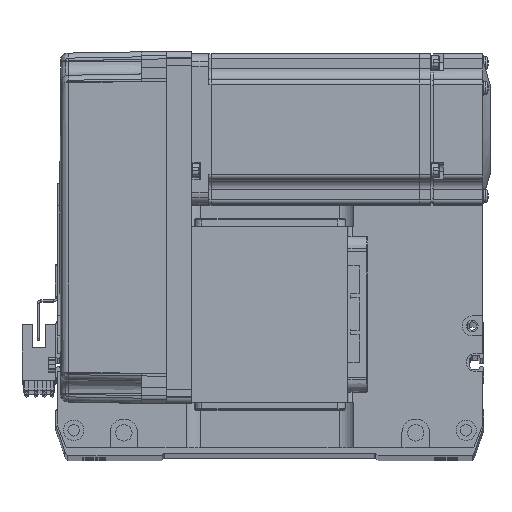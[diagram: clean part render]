
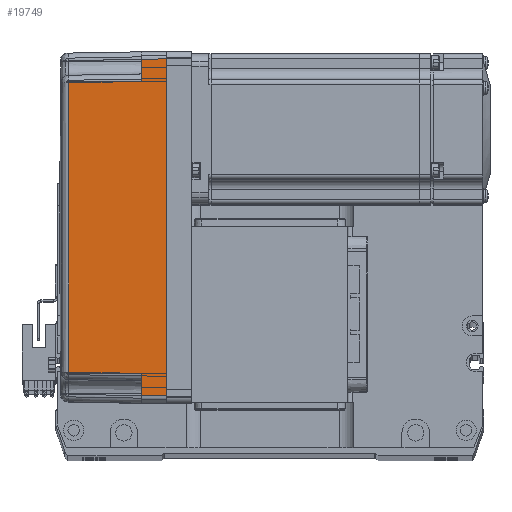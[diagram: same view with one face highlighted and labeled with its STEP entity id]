
A CAD part, top view. The second image highlights one B-rep face of the part: STEP entity #19749.
In plain terms, the highlighted planar face has unit normal (-0.018, 0, 1) as drawn and (0, 1, 0.017) by its records, which use the part's own axes.
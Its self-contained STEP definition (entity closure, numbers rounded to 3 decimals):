
#38 = LINE ( 'NONE', #47721, #30738 ) ;
#1122 = CARTESIAN_POINT ( 'NONE',  ( 58., 35.825, 10. ) ) ;
#1207 = CARTESIAN_POINT ( 'NONE',  ( 67., 36., 0. ) ) ;
#1821 = CARTESIAN_POINT ( 'NONE',  ( 66.826, 35.825, 10. ) ) ;
#2181 = DIRECTION ( 'NONE',  ( 0.017, 0.017, -1. ) ) ;
#2800 = CARTESIAN_POINT ( 'NONE',  ( 57.495, 35.32, 38.985 ) ) ;
#3845 = B_SPLINE_CURVE_WITH_KNOTS ( 'NONE', 3,
 ( #45119, #30681, #56820, #2800 ),
 .UNSPECIFIED., .F., .F.,
 ( 4, 4 ),
 ( 0., 1. ),
 .UNSPECIFIED. ) ;
#6063 = CARTESIAN_POINT ( 'NONE',  ( -58., 35.825, 10. ) ) ;
#8446 = DIRECTION ( 'NONE',  ( 0.017, -0.017, 1. ) ) ;
#9024 = DIRECTION ( 'NONE',  ( 1., 0., 0. ) ) ;
#11013 = EDGE_CURVE ( 'NONE', #31148, #41018, #24064, .T. ) ;
#11024 = DIRECTION ( 'NONE',  ( -0.017, -0.017, 1. ) ) ;
#14271 = ORIENTED_EDGE ( 'NONE', *, *, #61113, .F. ) ;
#14657 = AXIS2_PLACEMENT_3D ( 'NONE', #62554, #53202, #47568 ) ;
#15998 = ORIENTED_EDGE ( 'NONE', *, *, #58413, .T. ) ;
#18705 = CARTESIAN_POINT ( 'NONE',  ( -57.495, 35.32, 38.985 ) ) ;
#19749 = ADVANCED_FACE ( 'NONE', ( #46114 ), #43263, .T. ) ;
#20967 = EDGE_CURVE ( 'NONE', #40491, #54957, #63917, .T. ) ;
#20982 = CARTESIAN_POINT ( 'NONE',  ( 70., 35.825, 10. ) ) ;
#21746 = ORIENTED_EDGE ( 'NONE', *, *, #63528, .T. ) ;
#23870 = EDGE_CURVE ( 'NONE', #47366, #24987, #45678, .T. ) ;
#24064 = LINE ( 'NONE', #6063, #42481 ) ;
#24360 = ORIENTED_EDGE ( 'NONE', *, *, #63118, .T. ) ;
#24987 = VERTEX_POINT ( 'NONE', #1207 ) ;
#26071 = VECTOR ( 'NONE', #2181, 1000. ) ;
#26245 = ORIENTED_EDGE ( 'NONE', *, *, #23870, .F. ) ;
#27107 = VERTEX_POINT ( 'NONE', #36969 ) ;
#27113 = EDGE_LOOP ( 'NONE', ( #50782, #21746, #34876, #15998, #24360, #56485, #14271, #26245 ) ) ;
#30681 = CARTESIAN_POINT ( 'NONE',  ( -19.165, 35.316, 39.181 ) ) ;
#30738 = VECTOR ( 'NONE', #8446, 1000. ) ;
#31148 = VERTEX_POINT ( 'NONE', #47895 ) ;
#33753 = CARTESIAN_POINT ( 'NONE',  ( -66.826, 35.825, 10. ) ) ;
#34310 = CARTESIAN_POINT ( 'NONE',  ( 0., 36., 0. ) ) ;
#34876 = ORIENTED_EDGE ( 'NONE', *, *, #11013, .T. ) ;
#35468 = CARTESIAN_POINT ( 'NONE',  ( 67.001, 36.001, -0.052 ) ) ;
#35915 = DIRECTION ( 'NONE',  ( 0.017, -0.017, 1. ) ) ;
#36969 = CARTESIAN_POINT ( 'NONE',  ( 57.495, 35.32, 38.985 ) ) ;
#39140 = EDGE_CURVE ( 'NONE', #47366, #40219, #38, .T. ) ;
#40219 = VERTEX_POINT ( 'NONE', #33753 ) ;
#40491 = VERTEX_POINT ( 'NONE', #1122 ) ;
#41018 = VERTEX_POINT ( 'NONE', #18705 ) ;
#42481 = VECTOR ( 'NONE', #35915, 1000. ) ;
#43263 = PLANE ( 'NONE',  #14657 ) ;
#43580 = DIRECTION ( 'NONE',  ( 1., 0., 0. ) ) ;
#44493 = CARTESIAN_POINT ( 'NONE',  ( -67., 36., 0. ) ) ;
#45119 = CARTESIAN_POINT ( 'NONE',  ( -57.495, 35.32, 38.985 ) ) ;
#45678 = LINE ( 'NONE', #34310, #55765 ) ;
#45737 = DIRECTION ( 'NONE',  ( 1., 0., 0. ) ) ;
#46114 = FACE_OUTER_BOUND ( 'NONE', #27113, .T. ) ;
#47366 = VERTEX_POINT ( 'NONE', #44493 ) ;
#47568 = DIRECTION ( 'NONE',  ( 0., -0.017, 1. ) ) ;
#47721 = CARTESIAN_POINT ( 'NONE',  ( -67., 36., 0. ) ) ;
#47895 = CARTESIAN_POINT ( 'NONE',  ( -58., 35.825, 10. ) ) ;
#48731 = LINE ( 'NONE', #35468, #61949 ) ;
#50782 = ORIENTED_EDGE ( 'NONE', *, *, #39140, .T. ) ;
#50975 = CARTESIAN_POINT ( 'NONE',  ( 57.495, 35.32, 38.985 ) ) ;
#52263 = LINE ( 'NONE', #50975, #26071 ) ;
#53037 = VECTOR ( 'NONE', #45737, 1000. ) ;
#53202 = DIRECTION ( 'NONE',  ( 0., 1., 0.017 ) ) ;
#54957 = VERTEX_POINT ( 'NONE', #1821 ) ;
#55765 = VECTOR ( 'NONE', #43580, 1000. ) ;
#56485 = ORIENTED_EDGE ( 'NONE', *, *, #20967, .T. ) ;
#56820 = CARTESIAN_POINT ( 'NONE',  ( 19.165, 35.316, 39.181 ) ) ;
#56919 = VECTOR ( 'NONE', #9024, 1000. ) ;
#58413 = EDGE_CURVE ( 'NONE', #41018, #27107, #3845, .T. ) ;
#60045 = LINE ( 'NONE', #20982, #53037 ) ;
#61113 = EDGE_CURVE ( 'NONE', #24987, #54957, #48731, .T. ) ;
#61949 = VECTOR ( 'NONE', #11024, 1000. ) ;
#62224 = CARTESIAN_POINT ( 'NONE',  ( 70., 35.825, 10. ) ) ;
#62554 = CARTESIAN_POINT ( 'NONE',  ( 70., 36., 0. ) ) ;
#63118 = EDGE_CURVE ( 'NONE', #27107, #40491, #52263, .T. ) ;
#63528 = EDGE_CURVE ( 'NONE', #40219, #31148, #60045, .T. ) ;
#63917 = LINE ( 'NONE', #62224, #56919 ) ;
